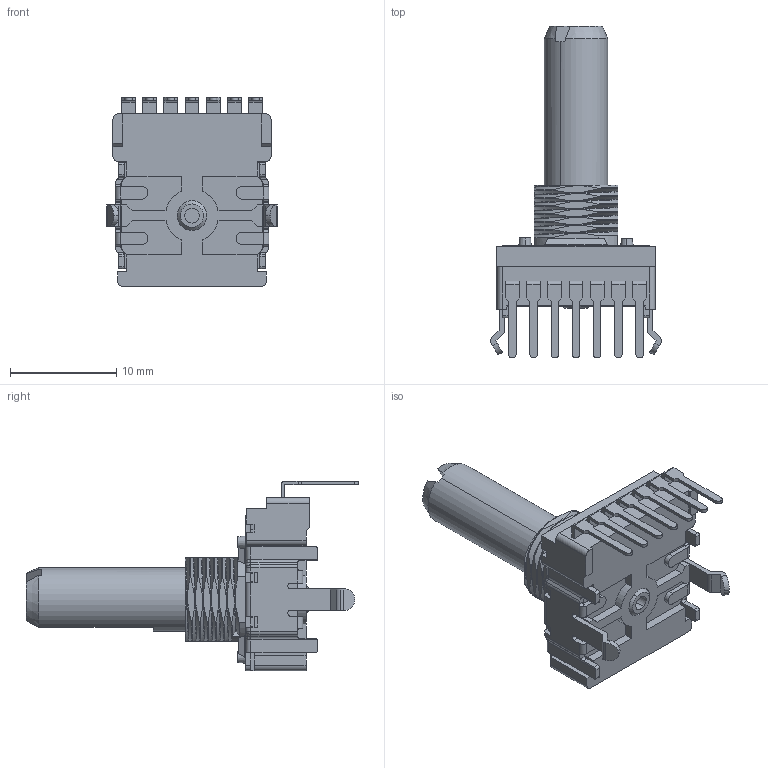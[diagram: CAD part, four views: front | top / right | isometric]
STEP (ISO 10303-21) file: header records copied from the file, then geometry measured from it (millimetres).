
FILE_DESCRIPTION (( 'STEP AP203' ), '1' );
FILE_NAME ('P140KH1-F20.STEP', '2026-09-15T18:37:19', ( '' ), ( '' ), 'SwSTEP 2.0', 'SolidWorks 2026', '' );
FILE_SCHEMA (( 'CONFIG_CONTROL_DESIGN' ));
Length unit declared in the file: millimetre
Products named in the file (8): V-terminal; 1-F20; P140KH1-F20; bushing; Housing; KH-housing; KH1 bracket; spring_plate
Assembly tree (13 placements, depth 3):
  P140KH1-F20
    KH-housing
      Housing
      V-terminal  x7
    1-F20
    spring_plate
    bushing
    KH1 bracket
Bounding box: 16.1 x 31.3 x 17.85 mm (x, y, z)
Volume: 1638.1 mm3; surface area: 3118.4 mm2
Topology: 12 solids, 12 shells, 774 faces, 2142 edges, 1384 vertices
Faces by surface type: plane 458, cylinder 228, bspline 65, cone 17, sphere 4, torus 2
Entity records: 36444 total; most frequent: CARTESIAN_POINT 18412, ORIENTED_EDGE 3836, DIRECTION 3227, EDGE_CURVE 1918, VERTEX_POINT 1240, VECTOR 1197, LINE 1197, AXIS2_PLACEMENT_3D 1015
